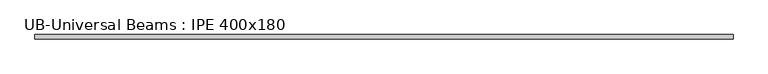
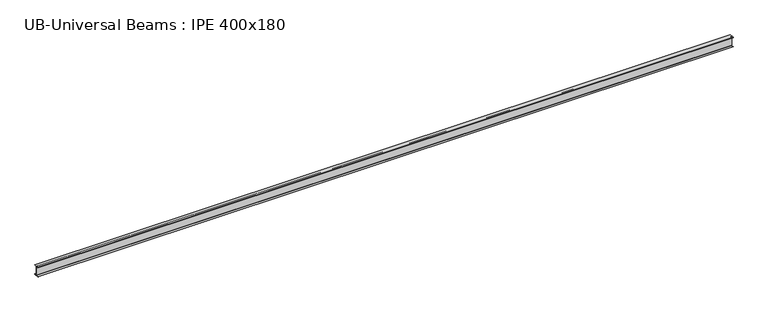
"""IFC4 building model written with IfcOpenShell, lengths in millimetres: beam geometry, UB-Universal Beams : IPE 400x180."""

from ifc_helpers import new_model, si_unit, point, frame, frame_2d, origin, place, context, project, spatial, polyline, circle_curve, trimmed, segment, composite_curve, outline, extrude, source, transform, mapped, element, save


def ub_universal_beams_ipe_400x180_42daf140(model_context):
    return source(origin(), model_context, "Body", "SweptSolid", [
        extrude(outline(composite_curve([segment(polyline([(90.0, -189.8), (90.0, -200.0), (-90.0, -200.0), (-90.0, -189.8), (-11.9, -189.8)]), True, "CONTINUOUS"), segment(trimmed(circle_curve(frame_2d((-11.9, -180.9)), 8.9), [point((-11.9, -189.8))], [point((-3.0, -180.9))], True, "CARTESIAN"), True, "CONTINUOUS"), segment(polyline([(-3.0, -180.9), (-3.0, 180.9)]), True, "CONTINUOUS"), segment(trimmed(circle_curve(frame_2d((-11.9, 180.9)), 8.9), [point((-3.0, 180.9))], [point((-11.9, 189.8))], True, "CARTESIAN"), True, "CONTINUOUS"), segment(polyline([(-11.9, 189.8), (-90.0, 189.8), (-90.0, 200.0), (90.0, 200.0), (90.0, 189.8), (11.9, 189.8)]), True, "CONTINUOUS"), segment(trimmed(circle_curve(frame_2d((11.9, 180.9)), 8.9), [point((11.9, 189.8))], [point((3.0, 180.9))], True, "CARTESIAN"), True, "CONTINUOUS"), segment(polyline([(3.0, 180.9), (3.0, -180.9)]), True, "CONTINUOUS"), segment(trimmed(circle_curve(frame_2d((11.9, -180.9)), 8.9), [point((3.0, -180.9))], [point((11.9, -189.8))], True, "CARTESIAN"), True, "CONTINUOUS"), segment(polyline([(11.9, -189.8), (90.0, -189.8)]), True, "CONTINUOUS")], self_intersect=False)), frame((-13809.55, 0.0, 0.0), z_axis=(1.0, 0.0, 0.0), x_axis=(0.0, 1.0, 0.0)), (0.0, 0.0, 1.0), 27811.8),
    ])


if __name__ == "__main__":
    model = new_model("IFC4")
    model_context = context("Model", 3, world=origin())
    ifc_project = project(units=[si_unit("LENGTHUNIT", "METRE", prefix="MILLI")], contexts=[model_context])
    site = spatial("IfcSite", under=ifc_project)
    building = spatial("IfcBuilding", under=site)
    placement = place(None, origin())
    ub_universal_beams_ipe_400x180_shape = ub_universal_beams_ipe_400x180_42daf140(model_context)
    element("IfcBeam", 1, ObjectType="UB-Universal Beams : IPE 400x180", at=placement, inside=building, context=model_context, shape_type="MappedRepresentation", body=[
        mapped(ub_universal_beams_ipe_400x180_shape, transform((0.0, 0.0, 0.0), x_axis=(1.0, 0.0, 0.0), y_axis=(0.0, 1.0, 0.0), z_axis=(0.0, 0.0, 1.0))),
    ])
    save(model, "model.ifc")
